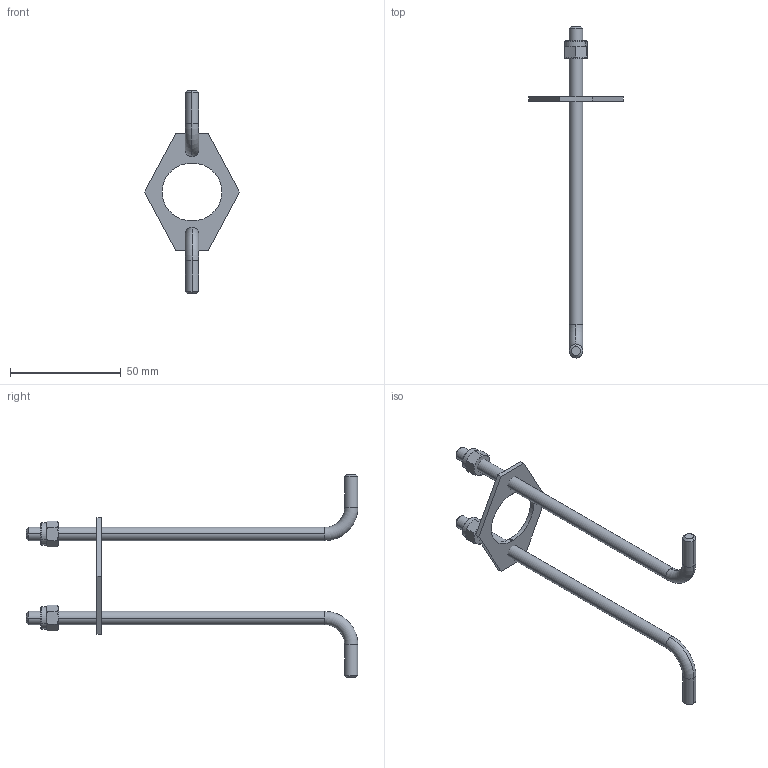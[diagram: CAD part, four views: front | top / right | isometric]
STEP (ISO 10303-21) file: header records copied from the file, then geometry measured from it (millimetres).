
FILE_DESCRIPTION (( 'STEP AP203' ), '1' );
FILE_NAME ('203ZX0009.STEP', '2020-07-10T06:23:03', ( '' ), ( '' ), 'SwSTEP 2.0', 'SolidWorks 2019', '' );
FILE_SCHEMA (( 'CONFIG_CONTROL_DESIGN' ));
Length unit declared in the file: millimetre
Products named in the file (4): 203ZX0009; M6 SAM_rs; KOTWA M6_rs; M148_Blacha ustalajaca szpilki_W1
Assembly tree (5 placements, depth 2):
  203ZX0009
    M148_Blacha ustalajaca szpilki_W1
    KOTWA M6_rs  x2
    M6 SAM_rs  x2
Bounding box: 42.88 x 150 x 92 mm (x, y, z)
Volume: 12340.7 mm3; surface area: 9796.4 mm2
Topology: 5 solids, 5 shells, 97 faces, 221 edges, 134 vertices
Faces by surface type: cone 32, cylinder 29, plane 28, torus 8
Entity records: 2265 total; most frequent: CARTESIAN_POINT 412, DIRECTION 315, ORIENTED_EDGE 278, EDGE_CURVE 139, AXIS2_PLACEMENT_3D 133, VERTEX_POINT 86, EDGE_LOOP 67, CIRCLE 66
